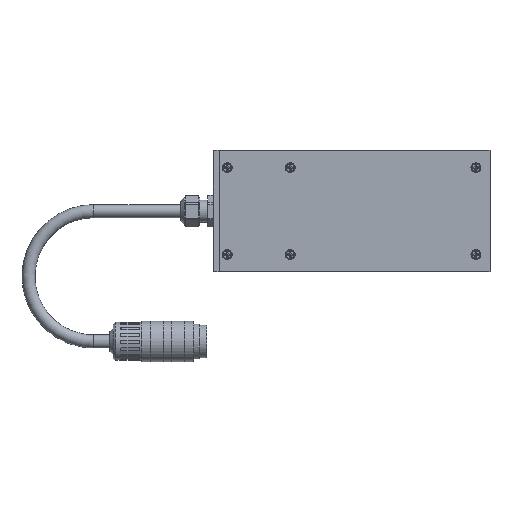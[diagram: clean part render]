
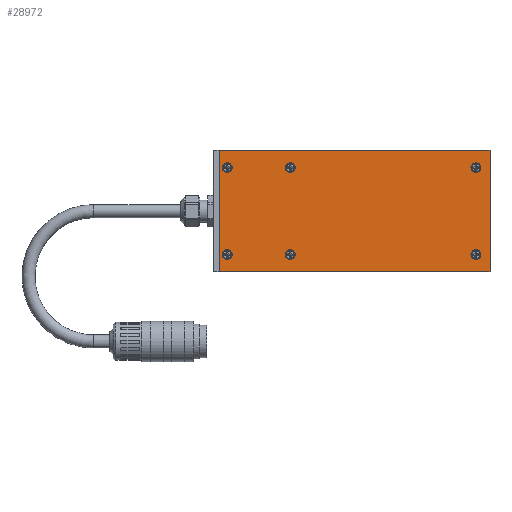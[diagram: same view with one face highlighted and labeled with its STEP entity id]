
A CAD part, front view. The second image highlights one B-rep face of the part: STEP entity #28972.
In plain terms, the highlighted planar face has unit normal (0, -1, 0).
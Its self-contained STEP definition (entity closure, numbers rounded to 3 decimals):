
#945=CIRCLE('',#30787,2.25);
#946=CIRCLE('',#30789,2.25);
#947=CIRCLE('',#30791,2.25);
#948=CIRCLE('',#30793,2.25);
#949=CIRCLE('',#30795,2.25);
#950=CIRCLE('',#30797,2.25);
#4950=ORIENTED_EDGE('',*,*,#9344,.T.);
#4951=ORIENTED_EDGE('',*,*,#9394,.T.);
#4952=ORIENTED_EDGE('',*,*,#9392,.F.);
#4953=ORIENTED_EDGE('',*,*,#9350,.T.);
#4954=ORIENTED_EDGE('',*,*,#9343,.T.);
#4955=ORIENTED_EDGE('',*,*,#9342,.T.);
#4956=ORIENTED_EDGE('',*,*,#9341,.T.);
#4957=ORIENTED_EDGE('',*,*,#9340,.T.);
#4958=ORIENTED_EDGE('',*,*,#9339,.T.);
#4959=ORIENTED_EDGE('',*,*,#9338,.T.);
#9338=EDGE_CURVE('',#11886,#11886,#945,.T.);
#9339=EDGE_CURVE('',#11887,#11887,#946,.T.);
#9340=EDGE_CURVE('',#11888,#11888,#947,.T.);
#9341=EDGE_CURVE('',#11889,#11889,#948,.T.);
#9342=EDGE_CURVE('',#11890,#11890,#949,.T.);
#9343=EDGE_CURVE('',#11891,#11891,#950,.T.);
#9344=EDGE_CURVE('',#11892,#11893,#13794,.T.);
#9350=EDGE_CURVE('',#11897,#11892,#13800,.T.);
#9392=EDGE_CURVE('',#11897,#11931,#13818,.T.);
#9394=EDGE_CURVE('',#11893,#11931,#13820,.T.);
#11886=VERTEX_POINT('',#41794);
#11887=VERTEX_POINT('',#41797);
#11888=VERTEX_POINT('',#41800);
#11889=VERTEX_POINT('',#41803);
#11890=VERTEX_POINT('',#41806);
#11891=VERTEX_POINT('',#41809);
#11892=VERTEX_POINT('',#41812);
#11893=VERTEX_POINT('',#41813);
#11897=VERTEX_POINT('',#41822);
#11931=VERTEX_POINT('',#41919);
#13794=LINE('',#41811,#15544);
#13800=LINE('',#41824,#15550);
#13818=LINE('',#41918,#15568);
#13820=LINE('',#41922,#15570);
#15544=VECTOR('',#35182,1000.);
#15550=VECTOR('',#35190,1000.);
#15568=VECTOR('',#35294,1000.);
#15570=VECTOR('',#35298,1000.);
#17320=EDGE_LOOP('',(#4950,#4951,#4952,#4953));
#17321=EDGE_LOOP('',(#4954));
#17322=EDGE_LOOP('',(#4955));
#17323=EDGE_LOOP('',(#4956));
#17324=EDGE_LOOP('',(#4957));
#17325=EDGE_LOOP('',(#4958));
#17326=EDGE_LOOP('',(#4959));
#18998=FACE_BOUND('',#17320,.T.);
#18999=FACE_BOUND('',#17321,.T.);
#19000=FACE_BOUND('',#17322,.T.);
#19001=FACE_BOUND('',#17323,.T.);
#19002=FACE_BOUND('',#17324,.T.);
#19003=FACE_BOUND('',#17325,.T.);
#19004=FACE_BOUND('',#17326,.T.);
#20094=PLANE('',#30844);
#28972=ADVANCED_FACE('',(#18998,#18999,#19000,#19001,#19002,#19003,#19004),
#20094,.F.);
#30787=AXIS2_PLACEMENT_3D('',#41793,#35158,#35159);
#30789=AXIS2_PLACEMENT_3D('',#41796,#35162,#35163);
#30791=AXIS2_PLACEMENT_3D('',#41799,#35166,#35167);
#30793=AXIS2_PLACEMENT_3D('',#41802,#35170,#35171);
#30795=AXIS2_PLACEMENT_3D('',#41805,#35174,#35175);
#30797=AXIS2_PLACEMENT_3D('',#41808,#35178,#35179);
#30844=AXIS2_PLACEMENT_3D('',#41924,#35300,#35301);
#35158=DIRECTION('',(0.,1.,0.));
#35159=DIRECTION('',(0.,0.,-1.));
#35162=DIRECTION('',(0.,1.,0.));
#35163=DIRECTION('',(0.,0.,-1.));
#35166=DIRECTION('',(0.,1.,0.));
#35167=DIRECTION('',(0.,0.,-1.));
#35170=DIRECTION('',(0.,1.,0.));
#35171=DIRECTION('',(0.,0.,-1.));
#35174=DIRECTION('',(0.,1.,0.));
#35175=DIRECTION('',(0.,0.,-1.));
#35178=DIRECTION('',(0.,1.,0.));
#35179=DIRECTION('',(0.,0.,-1.));
#35182=DIRECTION('',(0.,0.,1.));
#35190=DIRECTION('',(1.,0.,0.));
#35294=DIRECTION('',(0.,0.,1.));
#35298=DIRECTION('',(-1.,0.,0.));
#35300=DIRECTION('',(0.,1.,0.));
#35301=DIRECTION('',(1.,0.,0.));
#41793=CARTESIAN_POINT('',(-57.25,-26.,47.));
#41794=CARTESIAN_POINT('',(-57.25,-26.,44.75));
#41796=CARTESIAN_POINT('',(-28.25,-26.,7.));
#41797=CARTESIAN_POINT('',(-28.25,-26.,4.75));
#41799=CARTESIAN_POINT('',(-28.25,-26.,47.));
#41800=CARTESIAN_POINT('',(-28.25,-26.,44.75));
#41802=CARTESIAN_POINT('',(57.25,-26.,7.));
#41803=CARTESIAN_POINT('',(57.25,-26.,4.75));
#41805=CARTESIAN_POINT('',(57.25,-26.,47.));
#41806=CARTESIAN_POINT('',(57.25,-26.,44.75));
#41808=CARTESIAN_POINT('',(-57.25,-26.,7.));
#41809=CARTESIAN_POINT('',(-57.25,-26.,4.75));
#41811=CARTESIAN_POINT('',(63.75,-26.,-1.));
#41812=CARTESIAN_POINT('',(63.75,-26.,-1.));
#41813=CARTESIAN_POINT('',(63.75,-26.,55.));
#41822=CARTESIAN_POINT('',(-60.75,-26.,-1.));
#41824=CARTESIAN_POINT('',(-60.75,-26.,-1.));
#41918=CARTESIAN_POINT('',(-60.75,-26.,53.));
#41919=CARTESIAN_POINT('',(-60.75,-26.,55.));
#41922=CARTESIAN_POINT('',(60.75,-26.,55.));
#41924=CARTESIAN_POINT('',(60.75,-26.,53.));
